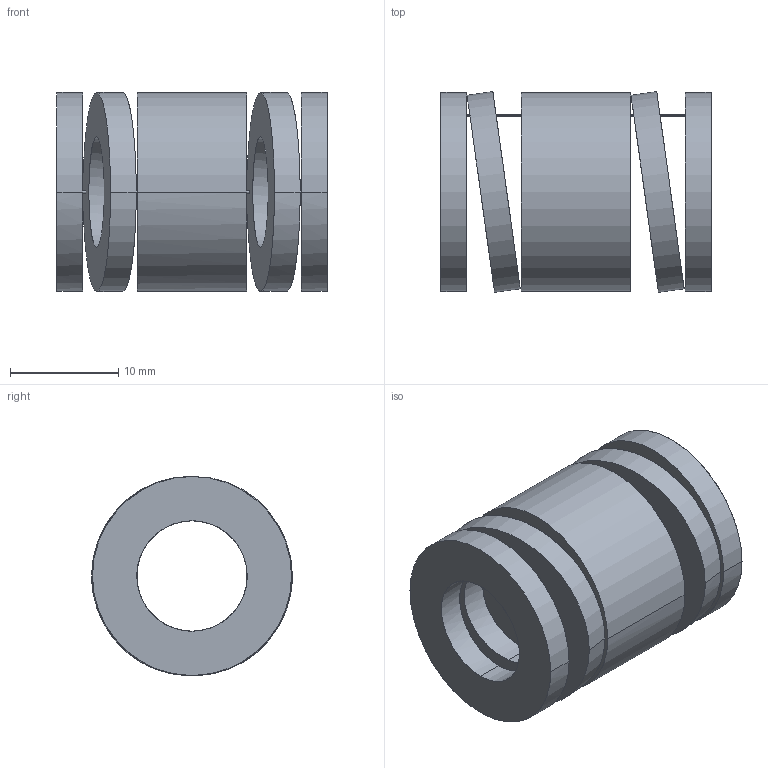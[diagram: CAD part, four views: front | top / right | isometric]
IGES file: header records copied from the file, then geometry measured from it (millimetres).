
Start section: START RECORD GO HERE.
Global section: file name: 392-B20-025.igs; native system: DASSAULT SYSTEMES CATIA V5 R20 - www.3ds.com; preprocessor: CATIA Version 5 Release 20 ; author: Utente; organization: NB04-ASUS; date: 20210812.160026; units: millimetre
Bounding box: 25 x 18.56 x 18.4 mm (x, y, z)
Surface area: 3613.3 mm2 (no closed solid volume)
Topology: 0 solids, 0 shells, 38 faces, 184 edges, 184 vertices
Faces by surface type: revolution 28, plane 10
